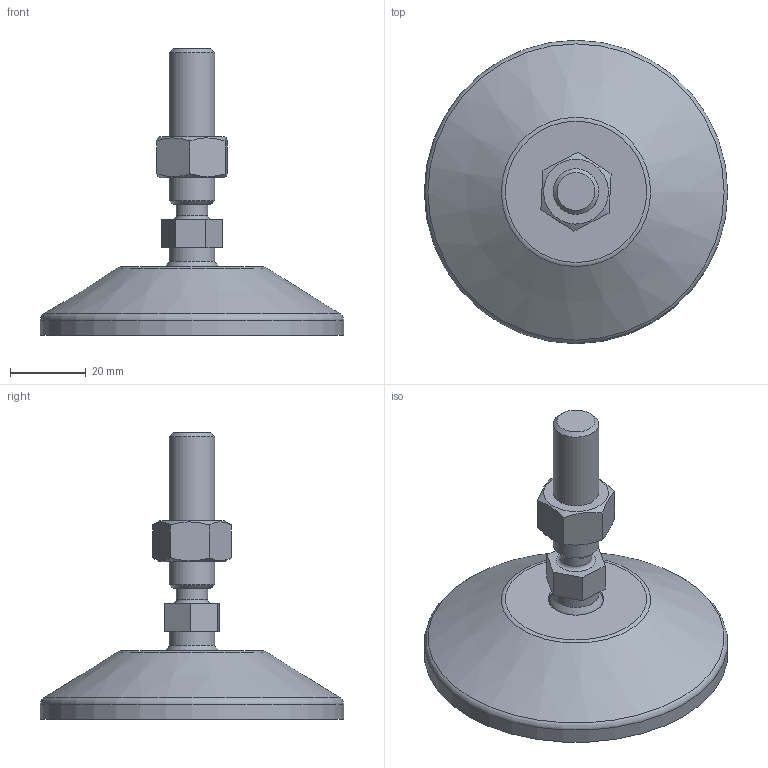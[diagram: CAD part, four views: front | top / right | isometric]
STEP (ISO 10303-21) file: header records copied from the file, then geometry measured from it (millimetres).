
FILE_DESCRIPTION(('STEP AP203'), '1');
FILE_NAME('栖闉罻', '', ('UNSPECIFIED'), ('UNSPECIFIED'), 'C3D Converter', 'C3D Toolkit', '');
FILE_SCHEMA(('CONFIG_CONTROL_DESIGN'));
Length unit declared in the file: millimetre
Products named in the file (4): A00020.112045; A00015.1080
Assembly tree (3 placements, depth 3):
  (unnamed)
    A00020.112045
      (unnamed)
    A00015.1080
Bounding box: 80 x 80 x 75.5 mm (x, y, z)
Volume: 45846.6 mm3; surface area: 20861.9 mm2
Topology: 3 solids, 3 shells, 179 faces, 452 edges, 301 vertices
Faces by surface type: plane 96, cylinder 58, torus 14, cone 9, sphere 2
Full cylindrical faces by diameter (mm): 4 x8, 8.3 x1, 10.647 x1, 12 x2, 14.3 x1, 15 x2, 15.5 x1, 69.3 x1, 80 x1
Entity records: 8737 total; most frequent: CARTESIAN_POINT 2847, DIRECTION 906, ORIENTED_EDGE 832, EDGE_CURVE 416, AXIS2_PLACEMENT_3D 353, VERTEX_POINT 300, EDGE_LOOP 238, LINE 200
